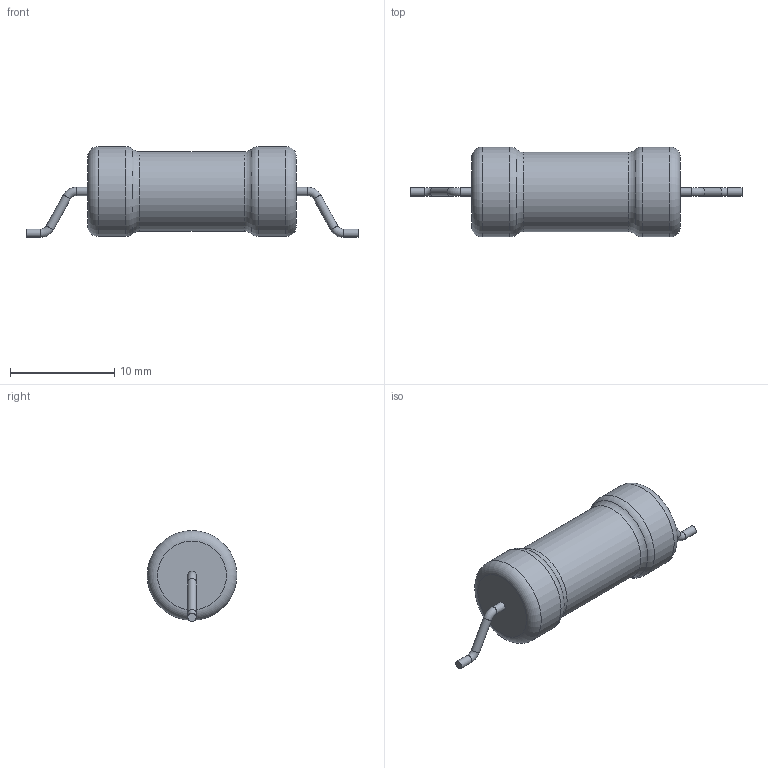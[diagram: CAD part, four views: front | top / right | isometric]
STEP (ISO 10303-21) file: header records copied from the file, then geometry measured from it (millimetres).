
FILE_DESCRIPTION(('STEP AP203'), '1');
FILE_NAME('R1-32-1M(3)', '', ('UNSPECIFIED'), ('UNSPECIFIED'), 'ASCON STEP Converter 1.6', 'ASCON Math Kernel', '');
FILE_SCHEMA(('CONFIG_CONTROL_DESIGN'));
Length unit declared in the file: millimetre
Bounding box: 31.8 x 8.6 x 8.7 mm (x, y, z)
Volume: 1014.5 mm3; surface area: 643.5 mm2
Topology: 1 solids, 1 shells, 23 faces, 41 edges, 22 vertices
Faces by surface type: torus 10, cylinder 9, plane 4
Full cylindrical faces by diameter (mm): 0.8 x6, 7.6 x1, 8.6 x2
Entity records: 682 total; most frequent: DIRECTION 92, CARTESIAN_POINT 68, AXIS2_PLACEMENT_3D 46, EDGE_LOOP 44, ORIENTED_EDGE 44, FACE_OUTER_BOUND 38, COLOUR_RGB 24, FILL_AREA_STYLE_COLOUR 24
